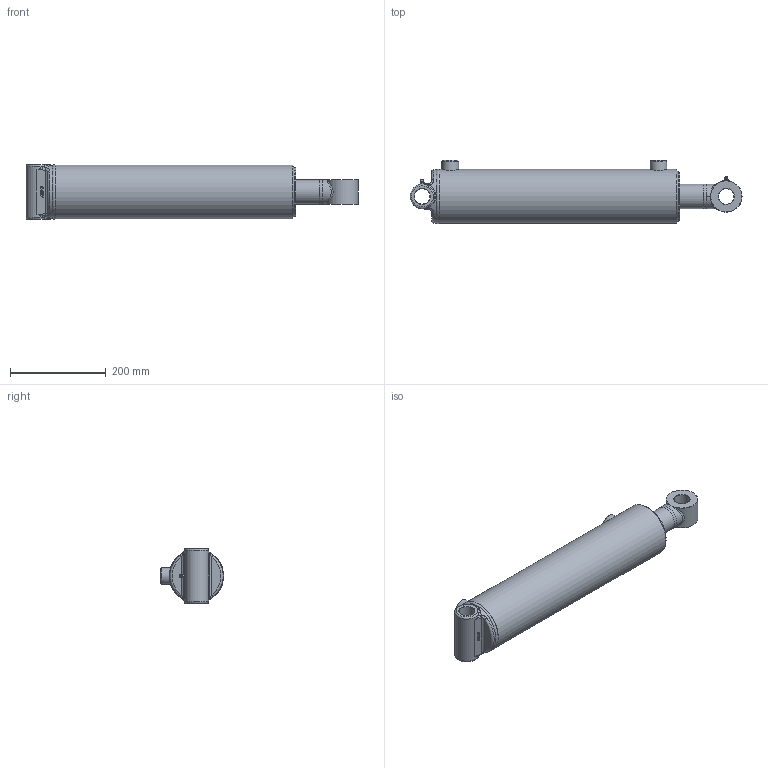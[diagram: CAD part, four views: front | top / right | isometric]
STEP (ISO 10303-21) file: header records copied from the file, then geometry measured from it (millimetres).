
FILE_DESCRIPTION(/* description */ ('Ø4.00 X 16.00 DA'),/* implementation_level */ '2;1');
FILE_NAME(/* name */ 'D:\Temp\1EC646C85C0AA06\y23t31ff.05b\Temp\na002swr..stp',/* time_stamp */ '2020-09-18T15:52:57+00:00',/* author */ (''),/* organization */ ('PRINCE MANUFACTURING'),/* preprocessor_version */ 'ST-DEVELOPER v18.1',/* originating_system */ 'Autodesk Inventor 2021',/* authorisation */ '');
FILE_SCHEMA (('AUTOMOTIVE_DESIGN { 1 0 10303 214 3 1 1 }'));
Length unit declared in the file: inch
Products named in the file (21): PC4016020A00-250XTXS; 0619-XTSG00-160; 0519-T-19620; 161900225; 200015706; 06Weld1_C360; 0719-P-125; 220000212; 0819-G-200; 230025106; 230025006; 240000026; 240061342; 240000342; 0211-AXS40-250X; 0111A-JAW4-21937; 210600511; 02Weld_C360; 240020009; 250014200; 270010020
Assembly tree (22 placements, depth 3):
  PC4016020A00-250XTXS
    0619-XTSG00-160
      0519-T-19620
      161900225
      200015706  x2
      06Weld1_C360
    0719-P-125
    220000212
    0819-G-200
    230025106
    230025006
    240000026
    240061342
    240000342
    0211-AXS40-250X
      0111A-JAW4-21937
      210600511
      02Weld_C360
    240020009
    250014200
    270010020  x2
Bounding box: 693.07 x 132.19 x 114.3 mm (x, y, z)
Volume: 2940024.9 mm3; surface area: 654103.6 mm2
Topology: 26 solids, 26 shells, 499 faces, 1415 edges, 978 vertices
Faces by surface type: plane 139, bspline 126, torus 90, cylinder 80, cone 62, sphere 2
Full cylindrical faces by diameter (mm): 1.524 x2, 5.359 x2, 6.35 x2, 12.7 x2, 20.269 x2, 29.464 x1, 31.699 x1, 31.826 x1, 32.131 x2, 34.315 x1, 34.925 x2, 35.052 x2, 50.8 x1, 50.876 x2, 51.994 x2, 52.832 x1, 53.188 x1, 57.963 x1, 59.157 x1, 60.35 x1, 61.976 x2, 63.5 x2, 73.152 x1, 82.55 x1, 92.177 x2, 92.913 x2, 96.52 x1, 98.031 x2, 98.273 x4, 100.986 x2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
Entity records: 32925 total; most frequent: CARTESIAN_POINT 19556, ORIENTED_EDGE 2656, DIRECTION 2459, EDGE_CURVE 1328, AXIS2_PLACEMENT_3D 1059, VERTEX_POINT 925, CIRCLE 657, EDGE_LOOP 539
